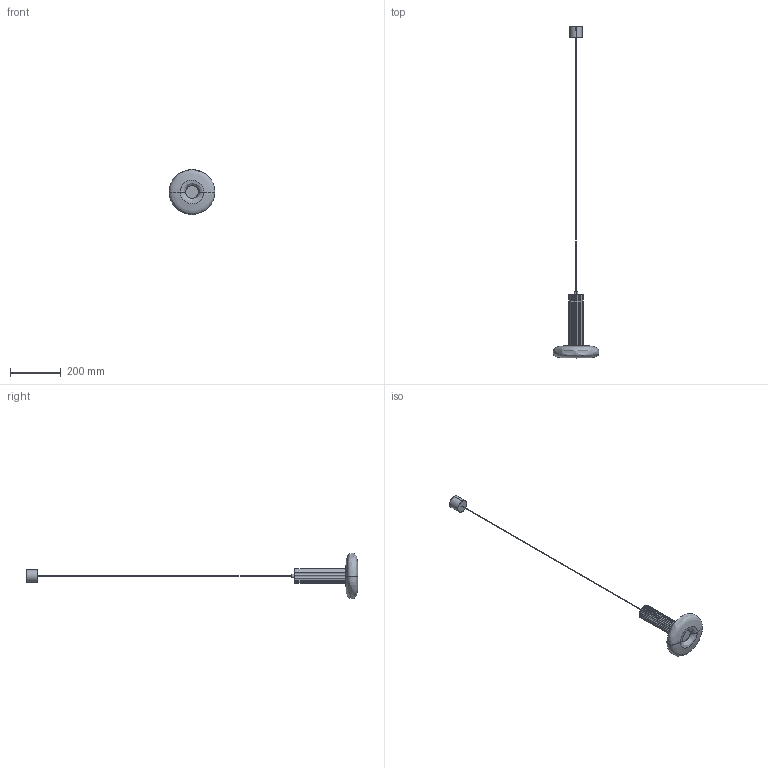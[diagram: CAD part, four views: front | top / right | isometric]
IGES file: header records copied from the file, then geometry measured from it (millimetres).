
Start section: SolidWorks IGES file using analytic representation for surfaces
Global section: file name: C:\Users\Agustin\Desktop\ARNOLD\SEPT 2025\2D-3D DEFINITIVO ONEDRIVE\2D-3D HULO_C1351\HULO_C1351.IGS; native system: SolidWorks 2018; preprocessor: SolidWorks 2018; author: Agustin; date: 250904.162758; units: millimetre
Bounding box: 180 x 1308.45 x 179.65 mm (x, y, z)
Surface area: 142338.3 mm2 (no closed solid volume)
Topology: 0 solids, 0 shells, 86 faces, 1644 edges, 1644 vertices
Faces by surface type: revolution 47, bspline 39
